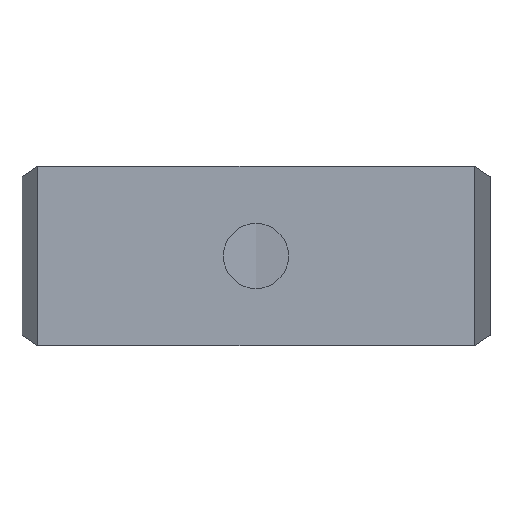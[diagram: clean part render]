
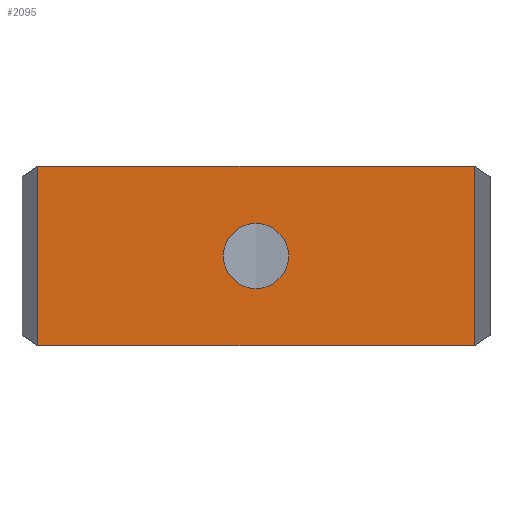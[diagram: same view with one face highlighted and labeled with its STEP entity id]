
A CAD part, front view. The second image highlights one B-rep face of the part: STEP entity #2095.
In plain terms, the highlighted planar face has unit normal (0, -1, 0).
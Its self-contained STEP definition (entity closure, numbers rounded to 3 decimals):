
#1 = DIRECTION ( 'NONE',  ( 0., 1., 0. ) ) ;
#30 = DIRECTION ( 'NONE',  ( -1., 0., 0. ) ) ;
#46 = ORIENTED_EDGE ( 'NONE', *, *, #469, .T. ) ;
#238 = VERTEX_POINT ( 'NONE', #288 ) ;
#249 = DIRECTION ( 'NONE',  ( 0., -1., 0. ) ) ;
#288 = CARTESIAN_POINT ( 'NONE',  ( 26.75, 0., 11. ) ) ;
#305 = DIRECTION ( 'NONE',  ( -1., 0., 0. ) ) ;
#344 = VECTOR ( 'NONE', #704, 1000. ) ;
#385 = CARTESIAN_POINT ( 'NONE',  ( 0., 0., -11. ) ) ;
#469 = EDGE_CURVE ( 'NONE', #2914, #759, #2688, .T. ) ;
#555 = ORIENTED_EDGE ( 'NONE', *, *, #1346, .T. ) ;
#704 = DIRECTION ( 'NONE',  ( 0., 0., -1. ) ) ;
#715 = AXIS2_PLACEMENT_3D ( 'NONE', #3840, #836, #2377 ) ;
#721 = AXIS2_PLACEMENT_3D ( 'NONE', #1490, #1, #2712 ) ;
#759 = VERTEX_POINT ( 'NONE', #1626 ) ;
#765 = ORIENTED_EDGE ( 'NONE', *, *, #2399, .F. ) ;
#836 = DIRECTION ( 'NONE',  ( 0., 1., 0. ) ) ;
#875 = FACE_BOUND ( 'NONE', #1077, .T. ) ;
#1016 = CARTESIAN_POINT ( 'NONE',  ( 26.75, 0., -11. ) ) ;
#1025 = CARTESIAN_POINT ( 'NONE',  ( -26.75, 0., 11. ) ) ;
#1077 = EDGE_LOOP ( 'NONE', ( #46, #2158 ) ) ;
#1164 = CIRCLE ( 'NONE', #721, 4. ) ;
#1239 = EDGE_LOOP ( 'NONE', ( #765, #2045, #555, #1561 ) ) ;
#1248 = CARTESIAN_POINT ( 'NONE',  ( 26.75, 0., 11. ) ) ;
#1346 = EDGE_CURVE ( 'NONE', #238, #1522, #2423, .T. ) ;
#1394 = CARTESIAN_POINT ( 'NONE',  ( -26.75, 0., 11. ) ) ;
#1439 = LINE ( 'NONE', #385, #3262 ) ;
#1490 = CARTESIAN_POINT ( 'NONE',  ( 0., 0., 0. ) ) ;
#1522 = VERTEX_POINT ( 'NONE', #1394 ) ;
#1561 = ORIENTED_EDGE ( 'NONE', *, *, #3547, .T. ) ;
#1564 = DIRECTION ( 'NONE',  ( 0., 0., -1. ) ) ;
#1626 = CARTESIAN_POINT ( 'NONE',  ( 0., 0., -4. ) ) ;
#1657 = LINE ( 'NONE', #1025, #344 ) ;
#1817 = CARTESIAN_POINT ( 'NONE',  ( 0., 0., 11. ) ) ;
#1828 = FACE_OUTER_BOUND ( 'NONE', #1239, .T. ) ;
#1887 = LINE ( 'NONE', #1248, #2264 ) ;
#2045 = ORIENTED_EDGE ( 'NONE', *, *, #3498, .F. ) ;
#2091 = CARTESIAN_POINT ( 'NONE',  ( 0., 0., 11. ) ) ;
#2095 = ADVANCED_FACE ( 'NONE', ( #875, #1828 ), #2980, .T. ) ;
#2116 = CARTESIAN_POINT ( 'NONE',  ( 0., 0., 4. ) ) ;
#2158 = ORIENTED_EDGE ( 'NONE', *, *, #2939, .T. ) ;
#2180 = VERTEX_POINT ( 'NONE', #1016 ) ;
#2264 = VECTOR ( 'NONE', #1564, 1000. ) ;
#2339 = VERTEX_POINT ( 'NONE', #3184 ) ;
#2377 = DIRECTION ( 'NONE',  ( 0., 0., 1. ) ) ;
#2395 = DIRECTION ( 'NONE',  ( 1., 0., 0. ) ) ;
#2399 = EDGE_CURVE ( 'NONE', #2180, #2339, #1439, .T. ) ;
#2423 = LINE ( 'NONE', #1817, #2825 ) ;
#2688 = CIRCLE ( 'NONE', #715, 4. ) ;
#2712 = DIRECTION ( 'NONE',  ( 0., 0., 1. ) ) ;
#2825 = VECTOR ( 'NONE', #30, 1000. ) ;
#2914 = VERTEX_POINT ( 'NONE', #2116 ) ;
#2939 = EDGE_CURVE ( 'NONE', #759, #2914, #1164, .T. ) ;
#2980 = PLANE ( 'NONE',  #3009 ) ;
#3009 = AXIS2_PLACEMENT_3D ( 'NONE', #2091, #249, #2395 ) ;
#3184 = CARTESIAN_POINT ( 'NONE',  ( -26.75, 0., -11. ) ) ;
#3262 = VECTOR ( 'NONE', #305, 1000. ) ;
#3498 = EDGE_CURVE ( 'NONE', #238, #2180, #1887, .T. ) ;
#3547 = EDGE_CURVE ( 'NONE', #1522, #2339, #1657, .T. ) ;
#3840 = CARTESIAN_POINT ( 'NONE',  ( 0., 0., 0. ) ) ;
